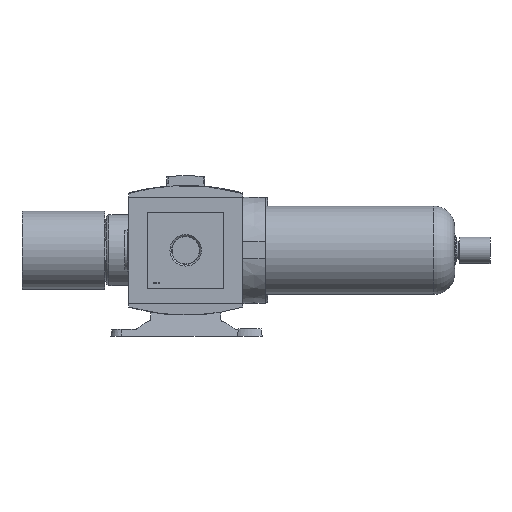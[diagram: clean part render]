
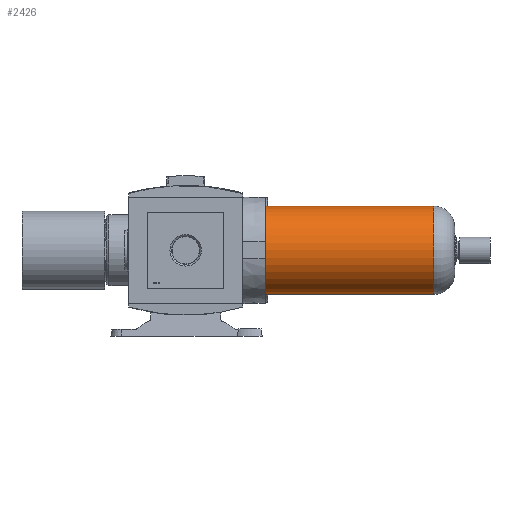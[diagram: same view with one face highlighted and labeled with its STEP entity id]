
A CAD part, left-side view. The second image highlights one B-rep face of the part: STEP entity #2426.
In plain terms, the highlighted cylindrical face has radius 31.75 mm (diameter 63.5 mm), a full revolution.
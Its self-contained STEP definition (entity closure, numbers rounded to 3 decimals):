
#2426 = ADVANCED_FACE( '', ( #4846, #4847 ), #4848, .T. );
#4846 = FACE_OUTER_BOUND( '', #7235, .T. );
#4847 = FACE_OUTER_BOUND( '', #7236, .T. );
#4848 = CYLINDRICAL_SURFACE( '', #7237, 31.75 );
#7235 = EDGE_LOOP( '', ( #13153 ) );
#7236 = EDGE_LOOP( '', ( #13154 ) );
#7237 = AXIS2_PLACEMENT_3D( '', #13155, #13156, #13157 );
#13153 = ORIENTED_EDGE( '', *, *, #14403, .F. );
#13154 = ORIENTED_EDGE( '', *, *, #13592, .T. );
#13155 = CARTESIAN_POINT( '', ( 0., -136.7, 0. ) );
#13156 = DIRECTION( '', ( 0., 1., 0. ) );
#13157 = DIRECTION( '', ( 0., 0., -1. ) );
#13592 = EDGE_CURVE( '', #16093, #16093, #16094, .T. );
#14403 = EDGE_CURVE( '', #17419, #17419, #17420, .T. );
#16093 = VERTEX_POINT( '', #19597 );
#16094 = CIRCLE( '', #19598, 31.75 );
#17419 = VERTEX_POINT( '', #21674 );
#17420 = CIRCLE( '', #21675, 31.75 );
#19597 = CARTESIAN_POINT( '', ( 0., 0., -31.75 ) );
#19598 = AXIS2_PLACEMENT_3D( '', #24322, #24323, #24324 );
#21674 = CARTESIAN_POINT( '', ( 0., -121.1, -31.75 ) );
#21675 = AXIS2_PLACEMENT_3D( '', #25290, #25291, #25292 );
#24322 = CARTESIAN_POINT( '', ( 0., 0., 0. ) );
#24323 = DIRECTION( '', ( 0., -1., 0. ) );
#24324 = DIRECTION( '', ( 0., 0., -1. ) );
#25290 = CARTESIAN_POINT( '', ( 0., -121.1, 0. ) );
#25291 = DIRECTION( '', ( 0., -1., 0. ) );
#25292 = DIRECTION( '', ( 0., 0., -1. ) );
